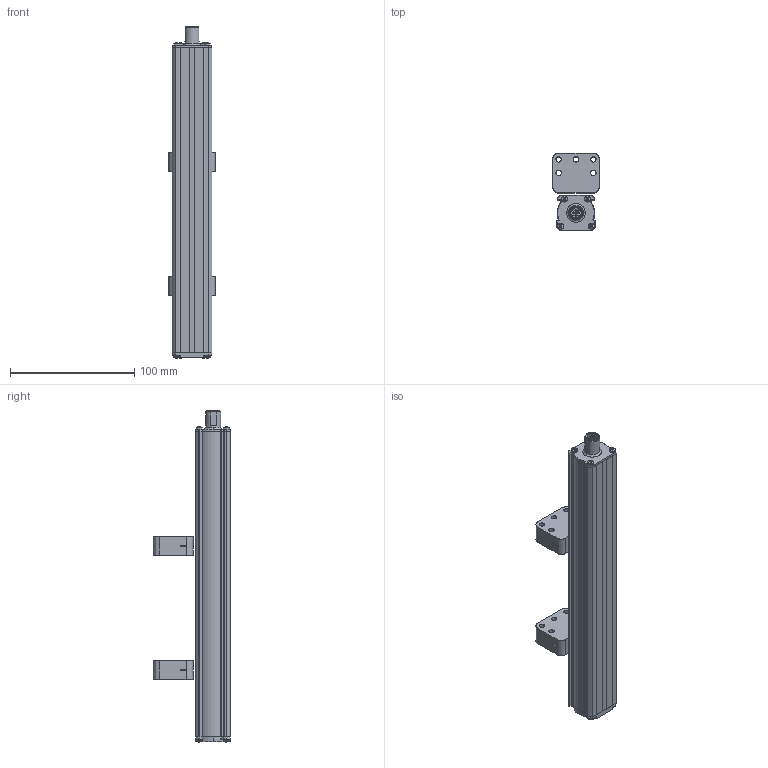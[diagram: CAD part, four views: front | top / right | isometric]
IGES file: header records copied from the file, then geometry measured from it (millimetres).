
Start section: SolidWorks IGES file using analytic representation for surfaces
Global section: file name: C:\Users\diego.babaglioni\Desktop\DISEGNI SITO GEFRAN\WPP-A-A-0100\3D\Iges 5.3\WPP-A-A-0100.IGS; native system: SolidWorks 2019; preprocessor: SolidWorks 2019; author: diego.babaglioni; date: 190321.155140; units: millimetre
Bounding box: 38.6 x 62.25 x 267.55 mm (x, y, z)
Surface area: 59176.5 mm2 (no closed solid volume)
Topology: 0 solids, 0 shells, 2122 faces, 15579 edges, 15545 vertices
Faces by surface type: revolution 1598, bspline 524
